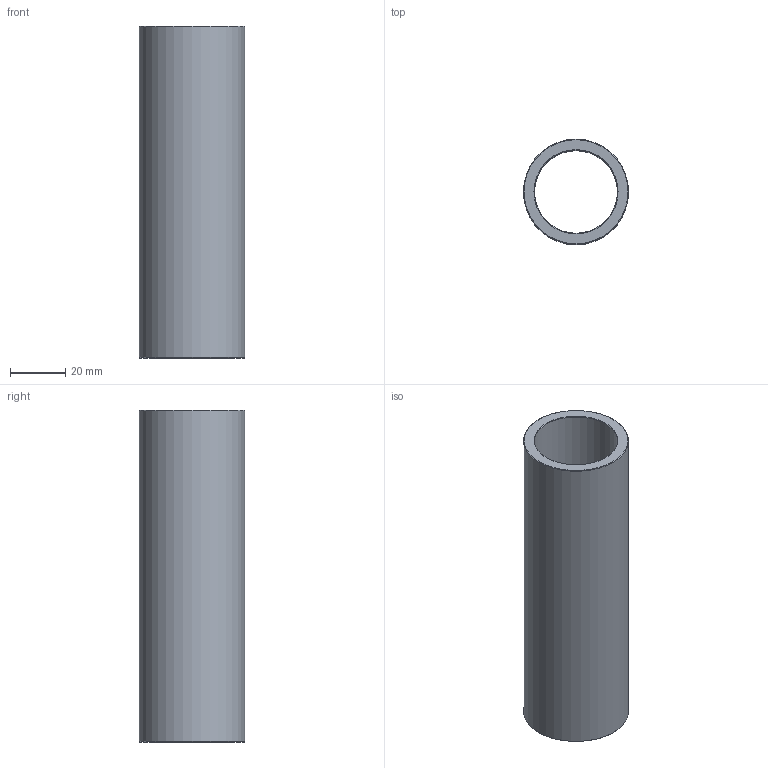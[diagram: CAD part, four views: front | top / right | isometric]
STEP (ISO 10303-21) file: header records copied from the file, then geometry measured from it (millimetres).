
FILE_DESCRIPTION(('STEP AP203'),'1');
FILE_NAME('C:/Users/Rodrigo/Desktop/GA4.030.120-1.step','2016-11-07T16:57:14',(' '),(' '),'Spatial InterOp 3D',' ',' ');
FILE_SCHEMA(('CONFIG_CONTROL_DESIGN'));
Length unit declared in the file: millimetre
Products named in the file (1): 1
Bounding box: 38 x 38 x 120 mm (x, y, z)
Volume: 51262.2 mm3; surface area: 26439.9 mm2
Topology: 1 solids, 1 shells, 8 faces, 14 edges, 8 vertices
Faces by surface type: cone 4, cylinder 2, plane 2
Full cylindrical faces by diameter (mm): 30 x1, 38 x1
Entity records: 212 total; most frequent: DIRECTION 34, CARTESIAN_POINT 25, AXIS2_PLACEMENT_3D 17, EDGE_LOOP 16, ORIENTED_EDGE 16, FACE_OUTER_BOUND 10, ADVANCED_FACE 8, EDGE_CURVE 8
